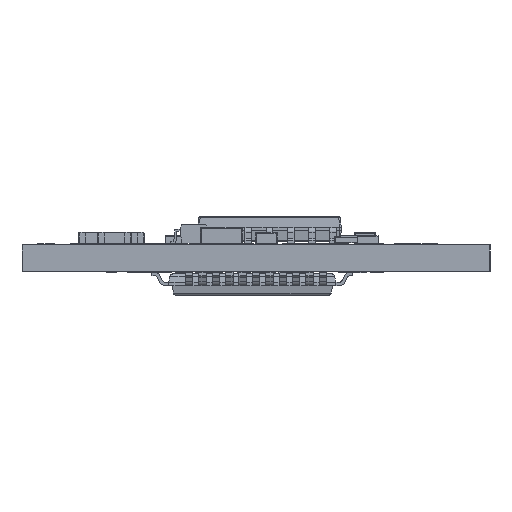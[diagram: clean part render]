
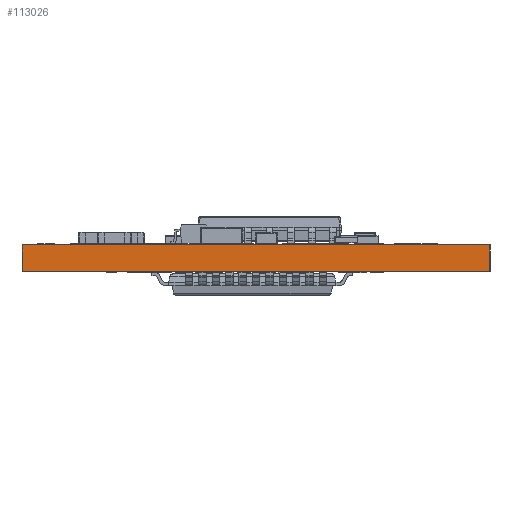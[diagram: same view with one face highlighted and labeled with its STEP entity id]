
A CAD part, left-side view. The second image highlights one B-rep face of the part: STEP entity #113026.
In plain terms, the highlighted planar face has unit normal (-1, 0, 0).
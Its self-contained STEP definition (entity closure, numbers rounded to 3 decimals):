
#3535 = ORIENTED_EDGE ( 'NONE', *, *, #80425, .T. ) ;
#10230 = PLANE ( 'NONE',  #115419 ) ;
#10380 = LINE ( 'NONE', #144767, #94285 ) ;
#12822 = CARTESIAN_POINT ( 'NONE',  ( -13.986, -14.007, -1.642 ) ) ;
#17890 = EDGE_CURVE ( 'NONE', #19328, #37180, #73962, .T. ) ;
#19328 = VERTEX_POINT ( 'NONE', #56798 ) ;
#22765 = CARTESIAN_POINT ( 'NONE',  ( -13.986, -14.007, -0.042 ) ) ;
#30268 = FACE_OUTER_BOUND ( 'NONE', #131696, .T. ) ;
#32182 = VERTEX_POINT ( 'NONE', #22765 ) ;
#32884 = VECTOR ( 'NONE', #115372, 1000. ) ;
#35781 = ORIENTED_EDGE ( 'NONE', *, *, #17890, .T. ) ;
#37180 = VERTEX_POINT ( 'NONE', #142638 ) ;
#37516 = EDGE_CURVE ( 'NONE', #60871, #32182, #156893, .T. ) ;
#52700 = VECTOR ( 'NONE', #143989, 1000. ) ;
#55418 = ORIENTED_EDGE ( 'NONE', *, *, #37516, .T. ) ;
#56798 = CARTESIAN_POINT ( 'NONE',  ( -13.986, 13.993, -0.042 ) ) ;
#60871 = VERTEX_POINT ( 'NONE', #12822 ) ;
#69390 = CARTESIAN_POINT ( 'NONE',  ( -13.986, -0.007, -1.642 ) ) ;
#73962 = LINE ( 'NONE', #133290, #87284 ) ;
#78569 = CARTESIAN_POINT ( 'NONE',  ( -13.986, -14.007, -0.842 ) ) ;
#80425 = EDGE_CURVE ( 'NONE', #37180, #60871, #146167, .T. ) ;
#82146 = DIRECTION ( 'NONE',  ( -1., 0., 0. ) ) ;
#87284 = VECTOR ( 'NONE', #156817, 1000. ) ;
#94285 = VECTOR ( 'NONE', #145797, 1000. ) ;
#95467 = CARTESIAN_POINT ( 'NONE',  ( -13.986, 13.993, -0.042 ) ) ;
#113026 = ADVANCED_FACE ( 'NONE', ( #30268 ), #10230, .T. ) ;
#115372 = DIRECTION ( 'NONE',  ( 0., 0., 1. ) ) ;
#115419 = AXIS2_PLACEMENT_3D ( 'NONE', #95467, #82146, #155192 ) ;
#131696 = EDGE_LOOP ( 'NONE', ( #35781, #3535, #55418, #133592 ) ) ;
#133290 = CARTESIAN_POINT ( 'NONE',  ( -13.986, 13.993, -0.842 ) ) ;
#133592 = ORIENTED_EDGE ( 'NONE', *, *, #134066, .F. ) ;
#134066 = EDGE_CURVE ( 'NONE', #19328, #32182, #10380, .T. ) ;
#142638 = CARTESIAN_POINT ( 'NONE',  ( -13.986, 13.993, -1.642 ) ) ;
#143989 = DIRECTION ( 'NONE',  ( 0., -1., 0. ) ) ;
#144767 = CARTESIAN_POINT ( 'NONE',  ( -13.986, -0.007, -0.042 ) ) ;
#145797 = DIRECTION ( 'NONE',  ( 0., -1., 0. ) ) ;
#146167 = LINE ( 'NONE', #69390, #52700 ) ;
#155192 = DIRECTION ( 'NONE',  ( 0., 0., -1. ) ) ;
#156817 = DIRECTION ( 'NONE',  ( 0., 0., -1. ) ) ;
#156893 = LINE ( 'NONE', #78569, #32884 ) ;
